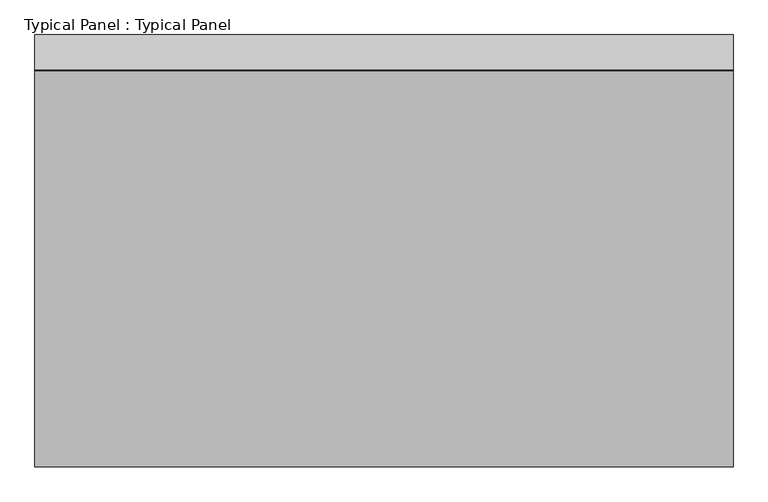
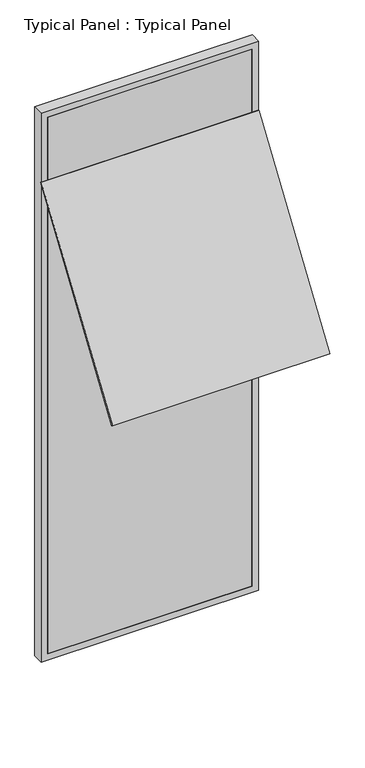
"""IFC4 building model written with IfcOpenShell, lengths in millimetres: plate geometry, Typical Panel : Typical Panel."""

from ifc_helpers import new_model, si_unit, frame, origin, place, context, project, spatial, polyline, outline, extrude, source, transform, mapped, element, save


def typical_panel_typical_panel_25451a31(model_context):
    return source(origin(), model_context, "Body", "SweptSolid", [
        extrude(outline(polyline([(0.0, -10.0), (0.0, 0.0), (1500.0, 0.0), (1500.0, -10.0), (0.0, -10.0)])), frame((750.0, -854.9732133, 2239.8628897), z_axis=(0.0, 0.5591929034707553, 0.829037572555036), x_axis=(-1.0, 0.0, 0.0)), (0.0, 0.0, 1.0), 1520.0),
        extrude(outline(polyline([(0.0, -750.0), (0.0, 750.0), (4000.0, 750.0), (4000.0, -750.0), (0.0, -750.0)]), holes=[polyline([(45.0, 705.0), (45.0, -705.0), (3955.0, -705.0), (3955.0, 705.0), (45.0, 705.0)])]), frame((0.0, -1.5797986, 0.0), z_axis=(0.0, 1.0, 0.0), x_axis=(0.0, 0.0, 1.0)), (0.0, 0.0, 1.0), 75.0),
        extrude(outline(polyline([(705.0, -1.5797986), (-705.0, -1.5797986), (-705.0, 13.4202014), (705.0, 13.4202014), (705.0, -1.5797986)])), frame((0.0, 0.0, 45.0), z_axis=(0.0, 0.0, 1.0), x_axis=(1.0, 0.0, 0.0)), (0.0, 0.0, 1.0), 3910.0),
    ])


if __name__ == "__main__":
    model = new_model("IFC4")
    model_context = context("Model", 3, world=origin())
    ifc_project = project(units=[si_unit("LENGTHUNIT", "METRE", prefix="MILLI")], contexts=[model_context])
    site = spatial("IfcSite", under=ifc_project)
    building = spatial("IfcBuilding", under=site)
    placement = place(None, origin())
    typical_panel_typical_panel_shape = typical_panel_typical_panel_25451a31(model_context)
    element("IfcPlate", 1, ObjectType="Typical Panel : Typical Panel", at=placement, inside=building, context=model_context, shape_type="MappedRepresentation", body=[
        mapped(typical_panel_typical_panel_shape, transform((0.0, 0.0, 0.0), x_axis=(1.0, 0.0, 0.0), y_axis=(0.0, 1.0, 0.0), z_axis=(0.0, 0.0, 1.0))),
    ])
    save(model, "model.ifc")
